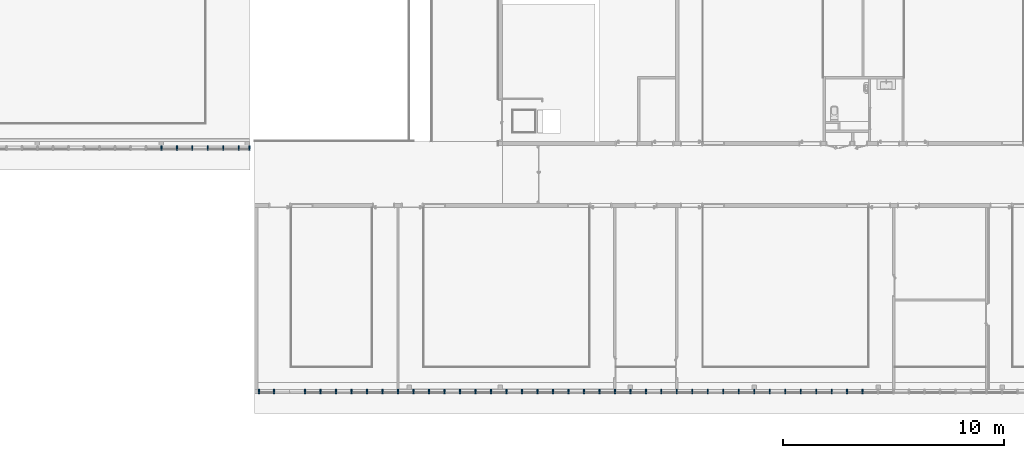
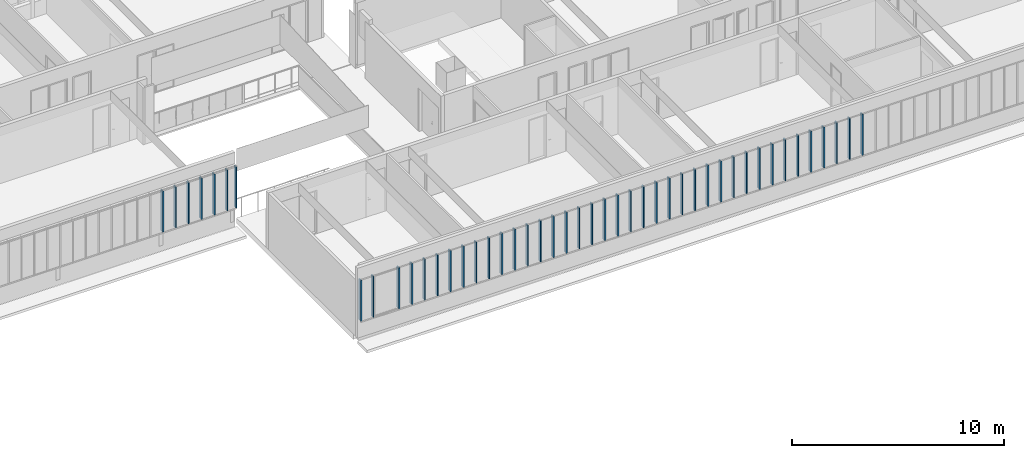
# One storey, part 5 of 87: 46 members, 2 elements without a shape of their own.
"""IFC2X3 building model written with IfcOpenShell, lengths in centimetres."""

from ifc_helpers import new_model, entity, si_unit, converted_unit, derived_unit, direction, frame, origin, place, context, subcontext, project, spatial, polyline, outline, extrude, source, transform, mapped, material, type_object, type_shapes, element, aggregate, save


model = new_model("IFC2X3")

# Units and contexts
model_context = context("Model", 3, precision=0.001, world=origin(), true_north=direction((6.12303176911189e-17, 1.0)))
body_context = subcontext(model_context, "Body", "Model", "MODEL_VIEW")
ifc_project = project(units=[si_unit("LENGTHUNIT", "METRE", prefix="CENTI"), si_unit("AREAUNIT", "SQUARE_METRE"), si_unit("VOLUMEUNIT", "CUBIC_METRE"), converted_unit("PLANEANGLEUNIT", "DEGREE", entity("IfcRatioMeasure", 0.0174532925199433), si_unit("PLANEANGLEUNIT", "RADIAN"), dimensions=[0, 0, 0, 0, 0, 0, 0]), si_unit("MASSUNIT", "GRAM", prefix="KILO"), derived_unit("MASSDENSITYUNIT", [(si_unit("MASSUNIT", "GRAM", prefix="KILO"), 1), (si_unit("LENGTHUNIT", "METRE"), -3)]), si_unit("TIMEUNIT", "SECOND"), si_unit("FREQUENCYUNIT", "HERTZ"), si_unit("THERMODYNAMICTEMPERATUREUNIT", "DEGREE_CELSIUS"), derived_unit("THERMALTRANSMITTANCEUNIT", [(si_unit("MASSUNIT", "GRAM", prefix="KILO"), 1), (si_unit("THERMODYNAMICTEMPERATUREUNIT", "KELVIN"), -1), (si_unit("TIMEUNIT", "SECOND"), -3)]), derived_unit("VOLUMETRICFLOWRATEUNIT", [(si_unit("LENGTHUNIT", "METRE"), 3), (si_unit("TIMEUNIT", "SECOND"), -1)]), si_unit("ELECTRICCURRENTUNIT", "AMPERE"), si_unit("ELECTRICVOLTAGEUNIT", "VOLT"), si_unit("POWERUNIT", "WATT"), si_unit("FORCEUNIT", "NEWTON", prefix="KILO"), si_unit("ILLUMINANCEUNIT", "LUX"), si_unit("LUMINOUSFLUXUNIT", "LUMEN"), si_unit("LUMINOUSINTENSITYUNIT", "CANDELA"), derived_unit("USERDEFINED", [(si_unit("MASSUNIT", "GRAM", prefix="KILO"), -1), (si_unit("LENGTHUNIT", "METRE"), -2), (si_unit("TIMEUNIT", "SECOND"), 3), (si_unit("LUMINOUSFLUXUNIT", "LUMEN"), 1)]), derived_unit("LINEARVELOCITYUNIT", [(si_unit("LENGTHUNIT", "METRE"), 1), (si_unit("TIMEUNIT", "SECOND"), -1)]), si_unit("PRESSUREUNIT", "PASCAL"), derived_unit("USERDEFINED", [(si_unit("LENGTHUNIT", "METRE"), -2), (si_unit("MASSUNIT", "GRAM", prefix="KILO"), 1), (si_unit("TIMEUNIT", "SECOND"), -2)])], contexts=[model_context])

# Site, building, storey
site_placement = place(None, frame((-2781.94577612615, 7442.24238424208, 0.0)))
site = spatial("IfcSite", under=ifc_project, at=site_placement, Name="Default", CompositionType="ELEMENT")
building_placement = place(site_placement, origin())
building = spatial("IfcBuilding", under=site, at=building_placement, CompositionType="ELEMENT")
storey_placement = place(building_placement, frame((0.0, 0.0, 774.0)))
storey = spatial("IfcBuildingStorey", under=building, at=storey_placement, Name="TR - N02 - ARCH", CompositionType="ELEMENT", Elevation=774.0)

# Curtain wall, member
curtain_wall_type = type_object("IfcCurtainWallType", Name="Mur-rideau:07 - mur rideau trame 70cm", PredefinedType="NOTDEFINED")
curtain_wall_1_placement = place(storey_placement, frame((0.0, 0.0, -774.0)))
curtain_wall_1 = element("IfcCurtainWall", 1, at=curtain_wall_1_placement, inside=storey, type_object=curtain_wall_type, Name="Mur-rideau:07 - mur rideau trame 70cm", ObjectType="Mur-rideau:07 - mur rideau trame 70cm")
ifc_material = material(Name="Aluminium")
member_type_1 = type_object("IfcMemberType", Name="150 x 25mm Détails", PredefinedType="MEMBER")
shared_shape_1 = source(origin(), body_context, "Body", "SweptSolid", [
    extrude(outline(polyline([(-5.6666666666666, -3.24999999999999), (-3.66666666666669, -3.24999999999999), (-3.66666666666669, -0.868749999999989), (-0.166666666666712, -0.868749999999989), (-0.166666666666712, -3.25000000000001), (13.3333333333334, -3.25000000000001), (13.3333333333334, 3.24999999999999), (-0.16666666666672, 3.24999999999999), (-0.16666666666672, 0.868749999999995), (-3.66666666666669, 0.868749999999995), (-3.66666666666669, 3.25), (-5.6666666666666, 3.25), (-5.6666666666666, -3.24999999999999)])), frame((-3.24999999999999, -1.96666666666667, -236.0), z_axis=(0.0, 0.0, 1.0), x_axis=(0.0, -1.0, 0.0)), (0.0, 0.0, 1.0), 236.0),
])
type_shapes(member_type_1, [shared_shape_1])
member_1_placement = place(storey_placement, frame((-4787.99987760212, -1946.27903364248, 90.0), z_axis=(0.0, 0.0, -1.0), x_axis=(1.0, 0.0, 0.0)))
member_1 = element("IfcMember", 2, at=member_1_placement, type_object=member_type_1, material=ifc_material, Name="Meneau rectangulaire:150 x 25mm Détails", ObjectType="Meneau rectangulaire:150 x 25mm Détails", context=body_context, shape_type="MappedRepresentation", body=[
    mapped(shared_shape_1, transform((0.0, 0.0, 0.0), scale=1.0)),
])

curtain_wall_2_placement = place(storey_placement, frame((0.0, 0.0, -774.0)))
curtain_wall_2 = element("IfcCurtainWall", 3, at=curtain_wall_2_placement, inside=storey, type_object=curtain_wall_type, Name="Mur-rideau:07 - mur rideau trame 70cm", ObjectType="Mur-rideau:07 - mur rideau trame 70cm")
member_type_2 = type_object("IfcMemberType", Name="150 x 25mm Détails", PredefinedType="MEMBER")
shared_shape_2 = source(origin(), body_context, "Body", "SweptSolid", [
    extrude(outline(polyline([(-5.6666666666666, -3.25), (-3.66666666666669, -3.25), (-3.66666666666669, -0.868749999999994), (-0.166666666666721, -0.868749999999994), (-0.166666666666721, -3.25000000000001), (13.3333333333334, -3.24999999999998), (13.3333333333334, 3.25000000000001), (-0.166666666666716, 3.25000000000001), (-0.166666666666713, 0.868749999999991), (-3.66666666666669, 0.868749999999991), (-3.66666666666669, 3.24999999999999), (-5.6666666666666, 3.24999999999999), (-5.6666666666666, -3.25)])), frame((-3.24999999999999, -1.96666666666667, -236.0), z_axis=(0.0, 0.0, 1.0), x_axis=(0.0, -1.0, 0.0)), (0.0, 0.0, 1.0), 236.0),
])
type_shapes(member_type_2, [shared_shape_2])
member_2_placement = place(storey_placement, frame((-4750.74988284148, -3046.51349958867, 326.0), z_axis=(0.0, 0.0, 1.0), x_axis=(-1.0, 0.0, 0.0)))
member_2 = element("IfcMember", 4, at=member_2_placement, type_object=member_type_2, material=ifc_material, Name="Meneau rectangulaire:150 x 25mm Détails", ObjectType="Meneau rectangulaire:150 x 25mm Détails", context=body_context, shape_type="MappedRepresentation", body=[
    mapped(shared_shape_2, transform((0.0, 0.0, 0.0), scale=1.0)),
])

# Member
member_type_3 = type_object("IfcMemberType", Name="150 x 25mm Détails", PredefinedType="MEMBER")
shared_shape_3 = source(origin(), body_context, "Body", "SweptSolid", [
    extrude(outline(polyline([(-5.66666666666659, -3.24999999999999), (-3.66666666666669, -3.24999999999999), (-3.66666666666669, -0.86874999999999), (-0.166666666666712, -0.86874999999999), (-0.166666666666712, -3.25000000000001), (13.3333333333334, -3.25000000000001), (13.3333333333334, 3.24999999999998), (-0.166666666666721, 3.24999999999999), (-0.166666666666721, 0.868749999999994), (-3.66666666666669, 0.868749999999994), (-3.66666666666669, 3.25), (-5.66666666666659, 3.25), (-5.66666666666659, -3.24999999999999)])), frame((0.0, -1.96666666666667, -236.0), z_axis=(0.0, 0.0, 1.0), x_axis=(0.0, -1.0, 0.0)), (0.0, 0.0, 1.0), 236.0),
])
type_shapes(member_type_3, [shared_shape_3])
member_3_placement = place(storey_placement, frame((-5189.49987763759, -1946.27903364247, 90.0), z_axis=(0.0, 0.0, -1.0), x_axis=(1.0, 0.0, 0.0)))
member_3 = element("IfcMember", 5, at=member_3_placement, type_object=member_type_3, material=ifc_material, Name="Meneau rectangulaire:150 x 25mm Détails", ObjectType="Meneau rectangulaire:150 x 25mm Détails", context=body_context, shape_type="MappedRepresentation", body=[
    mapped(shared_shape_3, transform((0.0, 0.0, 0.0), scale=1.0)),
])

member_4_placement = place(storey_placement, frame((-5119.49987763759, -1946.27903364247, 90.0), z_axis=(0.0, 0.0, -1.0), x_axis=(1.0, 0.0, 0.0)))
member_4 = element("IfcMember", 6, at=member_4_placement, type_object=member_type_3, material=ifc_material, Name="Meneau rectangulaire:150 x 25mm Détails", ObjectType="Meneau rectangulaire:150 x 25mm Détails", context=body_context, shape_type="MappedRepresentation", body=[
    mapped(shared_shape_3, transform((0.0, 0.0, 0.0), scale=1.0)),
])

member_5_placement = place(storey_placement, frame((-5049.49987763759, -1946.27903364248, 90.0), z_axis=(0.0, 0.0, -1.0), x_axis=(1.0, 0.0, 0.0)))
member_5 = element("IfcMember", 7, at=member_5_placement, type_object=member_type_3, material=ifc_material, Name="Meneau rectangulaire:150 x 25mm Détails", ObjectType="Meneau rectangulaire:150 x 25mm Détails", context=body_context, shape_type="MappedRepresentation", body=[
    mapped(shared_shape_3, transform((0.0, 0.0, 0.0), scale=1.0)),
])

member_6_placement = place(storey_placement, frame((-4979.49987763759, -1946.27903364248, 90.0), z_axis=(0.0, 0.0, -1.0), x_axis=(1.0, 0.0, 0.0)))
member_6 = element("IfcMember", 8, at=member_6_placement, type_object=member_type_3, material=ifc_material, Name="Meneau rectangulaire:150 x 25mm Détails", ObjectType="Meneau rectangulaire:150 x 25mm Détails", context=body_context, shape_type="MappedRepresentation", body=[
    mapped(shared_shape_3, transform((0.0, 0.0, 0.0), scale=1.0)),
])

member_7_placement = place(storey_placement, frame((-4909.49987763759, -1946.27903364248, 90.0), z_axis=(0.0, 0.0, -1.0), x_axis=(1.0, 0.0, 0.0)))
member_7 = element("IfcMember", 9, at=member_7_placement, type_object=member_type_3, material=ifc_material, Name="Meneau rectangulaire:150 x 25mm Détails", ObjectType="Meneau rectangulaire:150 x 25mm Détails", context=body_context, shape_type="MappedRepresentation", body=[
    mapped(shared_shape_3, transform((0.0, 0.0, 0.0), scale=1.0)),
])

member_8_placement = place(storey_placement, frame((-4839.49987763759, -1946.27903364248, 90.0), z_axis=(0.0, 0.0, -1.0), x_axis=(1.0, 0.0, 0.0)))
member_8 = element("IfcMember", 10, at=member_8_placement, type_object=member_type_3, material=ifc_material, Name="Meneau rectangulaire:150 x 25mm Détails", ObjectType="Meneau rectangulaire:150 x 25mm Détails", context=body_context, shape_type="MappedRepresentation", body=[
    mapped(shared_shape_3, transform((0.0, 0.0, 0.0), scale=1.0)),
])

aggregate(curtain_wall_1, [member_1, member_3, member_4, member_5, member_6, member_7, member_8])

member_9_placement = place(storey_placement, frame((-4540.749882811, -3046.51349958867, 90.0), z_axis=(0.0, 0.0, -1.0), x_axis=(1.0, 0.0, 0.0)))
member_9 = element("IfcMember", 11, at=member_9_placement, type_object=member_type_3, material=ifc_material, Name="Meneau rectangulaire:150 x 25mm Détails", ObjectType="Meneau rectangulaire:150 x 25mm Détails", context=body_context, shape_type="MappedRepresentation", body=[
    mapped(shared_shape_3, transform((0.0, 0.0, 0.0), scale=1.0)),
])

member_10_placement = place(storey_placement, frame((-4470.749882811, -3046.51349958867, 90.0), z_axis=(0.0, 0.0, -1.0), x_axis=(1.0, 0.0, 0.0)))
member_10 = element("IfcMember", 12, at=member_10_placement, type_object=member_type_3, material=ifc_material, Name="Meneau rectangulaire:150 x 25mm Détails", ObjectType="Meneau rectangulaire:150 x 25mm Détails", context=body_context, shape_type="MappedRepresentation", body=[
    mapped(shared_shape_3, transform((0.0, 0.0, 0.0), scale=1.0)),
])

member_11_placement = place(storey_placement, frame((-4400.749882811, -3046.51349958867, 90.0), z_axis=(0.0, 0.0, -1.0), x_axis=(1.0, 0.0, 0.0)))
member_11 = element("IfcMember", 13, at=member_11_placement, type_object=member_type_3, material=ifc_material, Name="Meneau rectangulaire:150 x 25mm Détails", ObjectType="Meneau rectangulaire:150 x 25mm Détails", context=body_context, shape_type="MappedRepresentation", body=[
    mapped(shared_shape_3, transform((0.0, 0.0, 0.0), scale=1.0)),
])

member_12_placement = place(storey_placement, frame((-4330.749882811, -3046.51349958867, 90.0), z_axis=(0.0, 0.0, -1.0), x_axis=(1.0, 0.0, 0.0)))
member_12 = element("IfcMember", 14, at=member_12_placement, type_object=member_type_3, material=ifc_material, Name="Meneau rectangulaire:150 x 25mm Détails", ObjectType="Meneau rectangulaire:150 x 25mm Détails", context=body_context, shape_type="MappedRepresentation", body=[
    mapped(shared_shape_3, transform((0.0, 0.0, 0.0), scale=1.0)),
])

member_13_placement = place(storey_placement, frame((-4260.749882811, -3046.51349958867, 90.0), z_axis=(0.0, 0.0, -1.0), x_axis=(1.0, 0.0, 0.0)))
member_13 = element("IfcMember", 15, at=member_13_placement, type_object=member_type_3, material=ifc_material, Name="Meneau rectangulaire:150 x 25mm Détails", ObjectType="Meneau rectangulaire:150 x 25mm Détails", context=body_context, shape_type="MappedRepresentation", body=[
    mapped(shared_shape_3, transform((0.0, 0.0, 0.0), scale=1.0)),
])

member_14_placement = place(storey_placement, frame((-4190.749882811, -3046.51349958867, 90.0), z_axis=(0.0, 0.0, -1.0), x_axis=(1.0, 0.0, 0.0)))
member_14 = element("IfcMember", 16, at=member_14_placement, type_object=member_type_3, material=ifc_material, Name="Meneau rectangulaire:150 x 25mm Détails", ObjectType="Meneau rectangulaire:150 x 25mm Détails", context=body_context, shape_type="MappedRepresentation", body=[
    mapped(shared_shape_3, transform((0.0, 0.0, 0.0), scale=1.0)),
])

member_15_placement = place(storey_placement, frame((-4120.749882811, -3046.51349958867, 90.0), z_axis=(0.0, 0.0, -1.0), x_axis=(1.0, 0.0, 0.0)))
member_15 = element("IfcMember", 17, at=member_15_placement, type_object=member_type_3, material=ifc_material, Name="Meneau rectangulaire:150 x 25mm Détails", ObjectType="Meneau rectangulaire:150 x 25mm Détails", context=body_context, shape_type="MappedRepresentation", body=[
    mapped(shared_shape_3, transform((0.0, 0.0, 0.0), scale=1.0)),
])

member_16_placement = place(storey_placement, frame((-4050.749882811, -3046.51349958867, 90.0), z_axis=(0.0, 0.0, -1.0), x_axis=(1.0, 0.0, 0.0)))
member_16 = element("IfcMember", 18, at=member_16_placement, type_object=member_type_3, material=ifc_material, Name="Meneau rectangulaire:150 x 25mm Détails", ObjectType="Meneau rectangulaire:150 x 25mm Détails", context=body_context, shape_type="MappedRepresentation", body=[
    mapped(shared_shape_3, transform((0.0, 0.0, 0.0), scale=1.0)),
])

member_17_placement = place(storey_placement, frame((-3980.749882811, -3046.51349958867, 90.0), z_axis=(0.0, 0.0, -1.0), x_axis=(1.0, 0.0, 0.0)))
member_17 = element("IfcMember", 19, at=member_17_placement, type_object=member_type_3, material=ifc_material, Name="Meneau rectangulaire:150 x 25mm Détails", ObjectType="Meneau rectangulaire:150 x 25mm Détails", context=body_context, shape_type="MappedRepresentation", body=[
    mapped(shared_shape_3, transform((0.0, 0.0, 0.0), scale=1.0)),
])

member_18_placement = place(storey_placement, frame((-3910.749882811, -3046.51349958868, 90.0), z_axis=(0.0, 0.0, -1.0), x_axis=(1.0, 0.0, 0.0)))
member_18 = element("IfcMember", 20, at=member_18_placement, type_object=member_type_3, material=ifc_material, Name="Meneau rectangulaire:150 x 25mm Détails", ObjectType="Meneau rectangulaire:150 x 25mm Détails", context=body_context, shape_type="MappedRepresentation", body=[
    mapped(shared_shape_3, transform((0.0, 0.0, 0.0), scale=1.0)),
])

member_19_placement = place(storey_placement, frame((-3840.749882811, -3046.51349958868, 90.0), z_axis=(0.0, 0.0, -1.0), x_axis=(1.0, 0.0, 0.0)))
member_19 = element("IfcMember", 21, at=member_19_placement, type_object=member_type_3, material=ifc_material, Name="Meneau rectangulaire:150 x 25mm Détails", ObjectType="Meneau rectangulaire:150 x 25mm Détails", context=body_context, shape_type="MappedRepresentation", body=[
    mapped(shared_shape_3, transform((0.0, 0.0, 0.0), scale=1.0)),
])

member_20_placement = place(storey_placement, frame((-3770.749882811, -3046.51349958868, 90.0), z_axis=(0.0, 0.0, -1.0), x_axis=(1.0, 0.0, 0.0)))
member_20 = element("IfcMember", 22, at=member_20_placement, type_object=member_type_3, material=ifc_material, Name="Meneau rectangulaire:150 x 25mm Détails", ObjectType="Meneau rectangulaire:150 x 25mm Détails", context=body_context, shape_type="MappedRepresentation", body=[
    mapped(shared_shape_3, transform((0.0, 0.0, 0.0), scale=1.0)),
])

member_21_placement = place(storey_placement, frame((-3700.749882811, -3046.51349958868, 90.0), z_axis=(0.0, 0.0, -1.0), x_axis=(1.0, 0.0, 0.0)))
member_21 = element("IfcMember", 23, at=member_21_placement, type_object=member_type_3, material=ifc_material, Name="Meneau rectangulaire:150 x 25mm Détails", ObjectType="Meneau rectangulaire:150 x 25mm Détails", context=body_context, shape_type="MappedRepresentation", body=[
    mapped(shared_shape_3, transform((0.0, 0.0, 0.0), scale=1.0)),
])

member_22_placement = place(storey_placement, frame((-3630.749882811, -3046.51349958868, 90.0), z_axis=(0.0, 0.0, -1.0), x_axis=(1.0, 0.0, 0.0)))
member_22 = element("IfcMember", 24, at=member_22_placement, type_object=member_type_3, material=ifc_material, Name="Meneau rectangulaire:150 x 25mm Détails", ObjectType="Meneau rectangulaire:150 x 25mm Détails", context=body_context, shape_type="MappedRepresentation", body=[
    mapped(shared_shape_3, transform((0.0, 0.0, 0.0), scale=1.0)),
])

member_23_placement = place(storey_placement, frame((-3560.749882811, -3046.51349958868, 90.0), z_axis=(0.0, 0.0, -1.0), x_axis=(1.0, 0.0, 0.0)))
member_23 = element("IfcMember", 25, at=member_23_placement, type_object=member_type_3, material=ifc_material, Name="Meneau rectangulaire:150 x 25mm Détails", ObjectType="Meneau rectangulaire:150 x 25mm Détails", context=body_context, shape_type="MappedRepresentation", body=[
    mapped(shared_shape_3, transform((0.0, 0.0, 0.0), scale=1.0)),
])

member_24_placement = place(storey_placement, frame((-3490.749882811, -3046.51349958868, 90.0), z_axis=(0.0, 0.0, -1.0), x_axis=(1.0, 0.0, 0.0)))
member_24 = element("IfcMember", 26, at=member_24_placement, type_object=member_type_3, material=ifc_material, Name="Meneau rectangulaire:150 x 25mm Détails", ObjectType="Meneau rectangulaire:150 x 25mm Détails", context=body_context, shape_type="MappedRepresentation", body=[
    mapped(shared_shape_3, transform((0.0, 0.0, 0.0), scale=1.0)),
])

member_25_placement = place(storey_placement, frame((-3420.749882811, -3046.51349958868, 90.0), z_axis=(0.0, 0.0, -1.0), x_axis=(1.0, 0.0, 0.0)))
member_25 = element("IfcMember", 27, at=member_25_placement, type_object=member_type_3, material=ifc_material, Name="Meneau rectangulaire:150 x 25mm Détails", ObjectType="Meneau rectangulaire:150 x 25mm Détails", context=body_context, shape_type="MappedRepresentation", body=[
    mapped(shared_shape_3, transform((0.0, 0.0, 0.0), scale=1.0)),
])

member_26_placement = place(storey_placement, frame((-3350.749882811, -3046.51349958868, 90.0), z_axis=(0.0, 0.0, -1.0), x_axis=(1.0, 0.0, 0.0)))
member_26 = element("IfcMember", 28, at=member_26_placement, type_object=member_type_3, material=ifc_material, Name="Meneau rectangulaire:150 x 25mm Détails", ObjectType="Meneau rectangulaire:150 x 25mm Détails", context=body_context, shape_type="MappedRepresentation", body=[
    mapped(shared_shape_3, transform((0.0, 0.0, 0.0), scale=1.0)),
])

member_27_placement = place(storey_placement, frame((-3280.749882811, -3046.51349958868, 90.0), z_axis=(0.0, 0.0, -1.0), x_axis=(1.0, 0.0, 0.0)))
member_27 = element("IfcMember", 29, at=member_27_placement, type_object=member_type_3, material=ifc_material, Name="Meneau rectangulaire:150 x 25mm Détails", ObjectType="Meneau rectangulaire:150 x 25mm Détails", context=body_context, shape_type="MappedRepresentation", body=[
    mapped(shared_shape_3, transform((0.0, 0.0, 0.0), scale=1.0)),
])

member_28_placement = place(storey_placement, frame((-3210.749882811, -3046.51349958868, 90.0), z_axis=(0.0, 0.0, -1.0), x_axis=(1.0, 0.0, 0.0)))
member_28 = element("IfcMember", 30, at=member_28_placement, type_object=member_type_3, material=ifc_material, Name="Meneau rectangulaire:150 x 25mm Détails", ObjectType="Meneau rectangulaire:150 x 25mm Détails", context=body_context, shape_type="MappedRepresentation", body=[
    mapped(shared_shape_3, transform((0.0, 0.0, 0.0), scale=1.0)),
])

member_29_placement = place(storey_placement, frame((-3140.749882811, -3046.51349958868, 90.0), z_axis=(0.0, 0.0, -1.0), x_axis=(1.0, 0.0, 0.0)))
member_29 = element("IfcMember", 31, at=member_29_placement, type_object=member_type_3, material=ifc_material, Name="Meneau rectangulaire:150 x 25mm Détails", ObjectType="Meneau rectangulaire:150 x 25mm Détails", context=body_context, shape_type="MappedRepresentation", body=[
    mapped(shared_shape_3, transform((0.0, 0.0, 0.0), scale=1.0)),
])

member_30_placement = place(storey_placement, frame((-3070.749882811, -3046.51349958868, 90.0), z_axis=(0.0, 0.0, -1.0), x_axis=(1.0, 0.0, 0.0)))
member_30 = element("IfcMember", 32, at=member_30_placement, type_object=member_type_3, material=ifc_material, Name="Meneau rectangulaire:150 x 25mm Détails", ObjectType="Meneau rectangulaire:150 x 25mm Détails", context=body_context, shape_type="MappedRepresentation", body=[
    mapped(shared_shape_3, transform((0.0, 0.0, 0.0), scale=1.0)),
])

member_31_placement = place(storey_placement, frame((-3000.749882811, -3046.51349958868, 90.0), z_axis=(0.0, 0.0, -1.0), x_axis=(1.0, 0.0, 0.0)))
member_31 = element("IfcMember", 33, at=member_31_placement, type_object=member_type_3, material=ifc_material, Name="Meneau rectangulaire:150 x 25mm Détails", ObjectType="Meneau rectangulaire:150 x 25mm Détails", context=body_context, shape_type="MappedRepresentation", body=[
    mapped(shared_shape_3, transform((0.0, 0.0, 0.0), scale=1.0)),
])

member_32_placement = place(storey_placement, frame((-2930.749882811, -3046.51349958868, 90.0), z_axis=(0.0, 0.0, -1.0), x_axis=(1.0, 0.0, 0.0)))
member_32 = element("IfcMember", 34, at=member_32_placement, type_object=member_type_3, material=ifc_material, Name="Meneau rectangulaire:150 x 25mm Détails", ObjectType="Meneau rectangulaire:150 x 25mm Détails", context=body_context, shape_type="MappedRepresentation", body=[
    mapped(shared_shape_3, transform((0.0, 0.0, 0.0), scale=1.0)),
])

member_33_placement = place(storey_placement, frame((-2860.749882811, -3046.51349958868, 90.0), z_axis=(0.0, 0.0, -1.0), x_axis=(1.0, 0.0, 0.0)))
member_33 = element("IfcMember", 35, at=member_33_placement, type_object=member_type_3, material=ifc_material, Name="Meneau rectangulaire:150 x 25mm Détails", ObjectType="Meneau rectangulaire:150 x 25mm Détails", context=body_context, shape_type="MappedRepresentation", body=[
    mapped(shared_shape_3, transform((0.0, 0.0, 0.0), scale=1.0)),
])

member_34_placement = place(storey_placement, frame((-2790.749882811, -3046.51349958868, 90.0), z_axis=(0.0, 0.0, -1.0), x_axis=(1.0, 0.0, 0.0)))
member_34 = element("IfcMember", 36, at=member_34_placement, type_object=member_type_3, material=ifc_material, Name="Meneau rectangulaire:150 x 25mm Détails", ObjectType="Meneau rectangulaire:150 x 25mm Détails", context=body_context, shape_type="MappedRepresentation", body=[
    mapped(shared_shape_3, transform((0.0, 0.0, 0.0), scale=1.0)),
])

member_35_placement = place(storey_placement, frame((-2720.749882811, -3046.51349958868, 90.0), z_axis=(0.0, 0.0, -1.0), x_axis=(1.0, 0.0, 0.0)))
member_35 = element("IfcMember", 37, at=member_35_placement, type_object=member_type_3, material=ifc_material, Name="Meneau rectangulaire:150 x 25mm Détails", ObjectType="Meneau rectangulaire:150 x 25mm Détails", context=body_context, shape_type="MappedRepresentation", body=[
    mapped(shared_shape_3, transform((0.0, 0.0, 0.0), scale=1.0)),
])

member_36_placement = place(storey_placement, frame((-2650.749882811, -3046.51349958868, 90.0), z_axis=(0.0, 0.0, -1.0), x_axis=(1.0, 0.0, 0.0)))
member_36 = element("IfcMember", 38, at=member_36_placement, type_object=member_type_3, material=ifc_material, Name="Meneau rectangulaire:150 x 25mm Détails", ObjectType="Meneau rectangulaire:150 x 25mm Détails", context=body_context, shape_type="MappedRepresentation", body=[
    mapped(shared_shape_3, transform((0.0, 0.0, 0.0), scale=1.0)),
])

member_37_placement = place(storey_placement, frame((-2580.749882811, -3046.51349958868, 90.0), z_axis=(0.0, 0.0, -1.0), x_axis=(1.0, 0.0, 0.0)))
member_37 = element("IfcMember", 39, at=member_37_placement, type_object=member_type_3, material=ifc_material, Name="Meneau rectangulaire:150 x 25mm Détails", ObjectType="Meneau rectangulaire:150 x 25mm Détails", context=body_context, shape_type="MappedRepresentation", body=[
    mapped(shared_shape_3, transform((0.0, 0.0, 0.0), scale=1.0)),
])

member_38_placement = place(storey_placement, frame((-2510.749882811, -3046.51349958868, 90.0), z_axis=(0.0, 0.0, -1.0), x_axis=(1.0, 0.0, 0.0)))
member_38 = element("IfcMember", 40, at=member_38_placement, type_object=member_type_3, material=ifc_material, Name="Meneau rectangulaire:150 x 25mm Détails", ObjectType="Meneau rectangulaire:150 x 25mm Détails", context=body_context, shape_type="MappedRepresentation", body=[
    mapped(shared_shape_3, transform((0.0, 0.0, 0.0), scale=1.0)),
])

member_39_placement = place(storey_placement, frame((-2440.749882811, -3046.51349958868, 90.0), z_axis=(0.0, 0.0, -1.0), x_axis=(1.0, 0.0, 0.0)))
member_39 = element("IfcMember", 41, at=member_39_placement, type_object=member_type_3, material=ifc_material, Name="Meneau rectangulaire:150 x 25mm Détails", ObjectType="Meneau rectangulaire:150 x 25mm Détails", context=body_context, shape_type="MappedRepresentation", body=[
    mapped(shared_shape_3, transform((0.0, 0.0, 0.0), scale=1.0)),
])

member_40_placement = place(storey_placement, frame((-2370.749882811, -3046.51349958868, 90.0), z_axis=(0.0, 0.0, -1.0), x_axis=(1.0, 0.0, 0.0)))
member_40 = element("IfcMember", 42, at=member_40_placement, type_object=member_type_3, material=ifc_material, Name="Meneau rectangulaire:150 x 25mm Détails", ObjectType="Meneau rectangulaire:150 x 25mm Détails", context=body_context, shape_type="MappedRepresentation", body=[
    mapped(shared_shape_3, transform((0.0, 0.0, 0.0), scale=1.0)),
])

member_41_placement = place(storey_placement, frame((-2300.749882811, -3046.51349958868, 90.0), z_axis=(0.0, 0.0, -1.0), x_axis=(1.0, 0.0, 0.0)))
member_41 = element("IfcMember", 43, at=member_41_placement, type_object=member_type_3, material=ifc_material, Name="Meneau rectangulaire:150 x 25mm Détails", ObjectType="Meneau rectangulaire:150 x 25mm Détails", context=body_context, shape_type="MappedRepresentation", body=[
    mapped(shared_shape_3, transform((0.0, 0.0, 0.0), scale=1.0)),
])

member_42_placement = place(storey_placement, frame((-2230.749882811, -3046.51349958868, 90.0), z_axis=(0.0, 0.0, -1.0), x_axis=(1.0, 0.0, 0.0)))
member_42 = element("IfcMember", 44, at=member_42_placement, type_object=member_type_3, material=ifc_material, Name="Meneau rectangulaire:150 x 25mm Détails", ObjectType="Meneau rectangulaire:150 x 25mm Détails", context=body_context, shape_type="MappedRepresentation", body=[
    mapped(shared_shape_3, transform((0.0, 0.0, 0.0), scale=1.0)),
])

member_43_placement = place(storey_placement, frame((-2160.749882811, -3046.51349958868, 90.0), z_axis=(0.0, 0.0, -1.0), x_axis=(1.0, 0.0, 0.0)))
member_43 = element("IfcMember", 45, at=member_43_placement, type_object=member_type_3, material=ifc_material, Name="Meneau rectangulaire:150 x 25mm Détails", ObjectType="Meneau rectangulaire:150 x 25mm Détails", context=body_context, shape_type="MappedRepresentation", body=[
    mapped(shared_shape_3, transform((0.0, 0.0, 0.0), scale=1.0)),
])

member_44_placement = place(storey_placement, frame((-2090.749882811, -3046.51349958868, 90.0), z_axis=(0.0, 0.0, -1.0), x_axis=(1.0, 0.0, 0.0)))
member_44 = element("IfcMember", 46, at=member_44_placement, type_object=member_type_3, material=ifc_material, Name="Meneau rectangulaire:150 x 25mm Détails", ObjectType="Meneau rectangulaire:150 x 25mm Détails", context=body_context, shape_type="MappedRepresentation", body=[
    mapped(shared_shape_3, transform((0.0, 0.0, 0.0), scale=1.0)),
])

member_45_placement = place(storey_placement, frame((-2020.749882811, -3046.51349958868, 90.0), z_axis=(0.0, 0.0, -1.0), x_axis=(1.0, 0.0, 0.0)))
member_45 = element("IfcMember", 47, at=member_45_placement, type_object=member_type_3, material=ifc_material, Name="Meneau rectangulaire:150 x 25mm Détails", ObjectType="Meneau rectangulaire:150 x 25mm Détails", context=body_context, shape_type="MappedRepresentation", body=[
    mapped(shared_shape_3, transform((0.0, 0.0, 0.0), scale=1.0)),
])

member_46_placement = place(storey_placement, frame((-4680.749882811, -3046.51349958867, 90.0), z_axis=(0.0, 0.0, -1.0), x_axis=(1.0, 0.0, 0.0)))
member_46 = element("IfcMember", 48, at=member_46_placement, type_object=member_type_3, material=ifc_material, Name="Meneau rectangulaire:150 x 25mm Détails", ObjectType="Meneau rectangulaire:150 x 25mm Détails", context=body_context, shape_type="MappedRepresentation", body=[
    mapped(shared_shape_3, transform((0.0, 0.0, 0.0), scale=1.0)),
])

aggregate(curtain_wall_2, [member_2, member_9, member_10, member_11, member_12, member_13, member_14, member_15, member_16, member_17, member_18, member_19, member_20, member_21, member_22, member_23, member_24, member_25, member_26, member_27, member_28, member_29, member_30, member_31, member_32, member_33, member_34, member_35, member_36, member_37, member_38, member_39, member_40, member_41, member_42, member_43, member_44, member_45, member_46])

save(model, "model.ifc")
